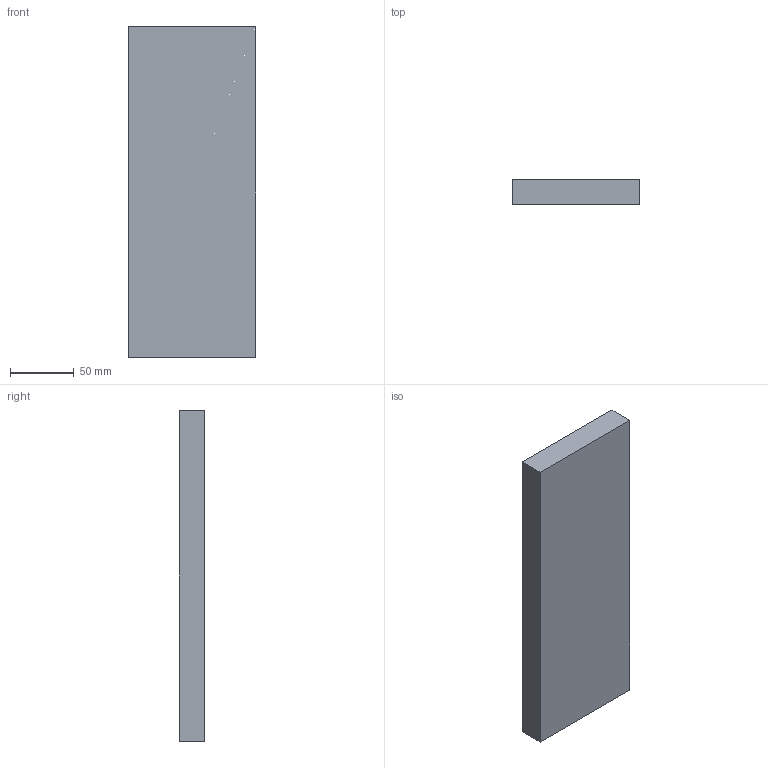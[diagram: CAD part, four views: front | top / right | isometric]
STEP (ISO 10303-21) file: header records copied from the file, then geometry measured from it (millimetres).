
FILE_DESCRIPTION(('Open CASCADE Model'),'2;1');
FILE_NAME('Open CASCADE Shape Model','2026-03-30T20:16:05',('Author'),( 'Open CASCADE'),'Open CASCADE STEP processor 7.8','Open CASCADE 7.8' ,'Unknown');
FILE_SCHEMA(('AUTOMOTIVE_DESIGN { 1 0 10303 214 1 1 1 1 }'));
Length unit declared in the file: millimetre
Products named in the file (1): Open CASCADE STEP translator 7.8 10
Bounding box: 100 x 20 x 260 mm (x, y, z)
Volume: 520000 mm3; surface area: 66400 mm2
Topology: 1 solids, 1 shells, 6 faces, 12 edges, 8 vertices
Faces by surface type: plane 6
Entity records: 322 total; most frequent: CARTESIAN_POINT 51, DIRECTION 50, LINE 36, VECTOR 36, ORIENTED_EDGE 24, PCURVE 24, DEFINITIONAL_REPRESENTATION 24, EDGE_CURVE 12
